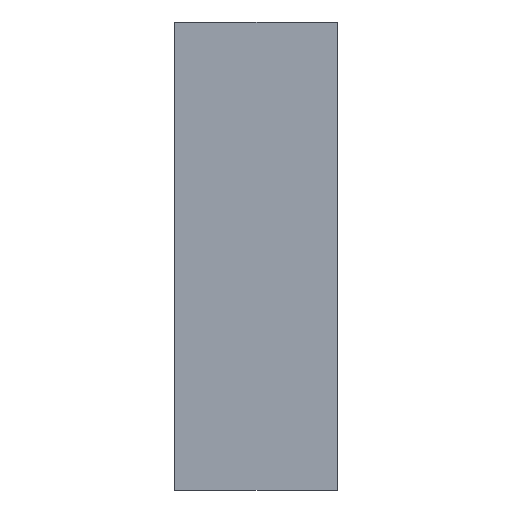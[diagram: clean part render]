
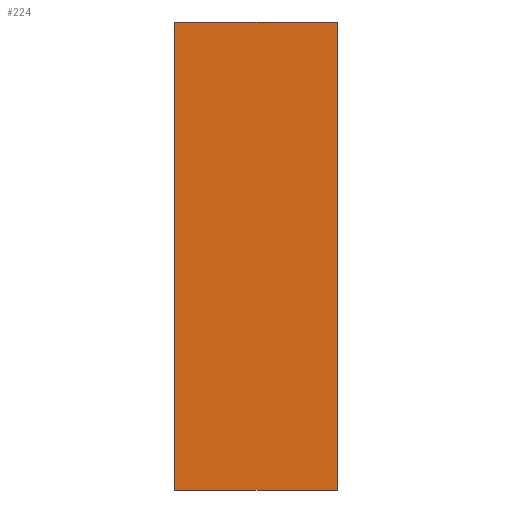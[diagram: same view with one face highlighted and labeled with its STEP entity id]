
A CAD part, front view. The second image highlights one B-rep face of the part: STEP entity #224.
In plain terms, the highlighted free-form (B-spline) face has degree [1, 1] with [2, 2] control points.
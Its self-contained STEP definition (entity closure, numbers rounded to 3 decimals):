
#224=ADVANCED_FACE('',(#502),#4693,.T.);
#502=FACE_OUTER_BOUND('',#780,.T.);
#780=EDGE_LOOP('',(#1257,#1258,#1259,#1260,#1261,#1262,#1263,#1264));
#1257=ORIENTED_EDGE('',*,*,#2703,.F.);
#1258=ORIENTED_EDGE('',*,*,#2705,.F.);
#1259=ORIENTED_EDGE('',*,*,#2698,.F.);
#1260=ORIENTED_EDGE('',*,*,#2712,.T.);
#1261=ORIENTED_EDGE('',*,*,#2708,.F.);
#1262=ORIENTED_EDGE('',*,*,#2718,.T.);
#1263=ORIENTED_EDGE('',*,*,#2714,.T.);
#1264=ORIENTED_EDGE('',*,*,#2719,.T.);
#2698=EDGE_CURVE('',#4210,#4211,#3845,.T.);
#2703=EDGE_CURVE('',#4215,#4216,#3848,.T.);
#2705=EDGE_CURVE('',#4211,#4215,#3439,.T.);
#2708=EDGE_CURVE('',#4218,#4219,#3849,.T.);
#2712=EDGE_CURVE('',#4210,#4219,#3444,.T.);
#2714=EDGE_CURVE('',#4221,#4222,#3851,.T.);
#2718=EDGE_CURVE('',#4218,#4221,#3448,.T.);
#2719=EDGE_CURVE('',#4222,#4216,#3449,.T.);
#3439=B_SPLINE_CURVE_WITH_KNOTS('',1,(#6290,#6291),.UNSPECIFIED.,.F.,.F.,
(2,2),(0.,694.),.UNSPECIFIED.);
#3444=B_SPLINE_CURVE_WITH_KNOTS('',1,(#6306,#6307),.UNSPECIFIED.,.F.,.F.,
(2,2),(-1996.,0.),.UNSPECIFIED.);
#3448=B_SPLINE_CURVE_WITH_KNOTS('',1,(#6320,#6321),.UNSPECIFIED.,.F.,.F.,
(2,2),(-694.,0.),.UNSPECIFIED.);
#3449=B_SPLINE_CURVE_WITH_KNOTS('',1,(#6322,#6323),.UNSPECIFIED.,.F.,.F.,
(2,2),(-1996.,0.),.UNSPECIFIED.);
#3845=(
BOUNDED_CURVE()
B_SPLINE_CURVE(2,(#6272,#6273,#6274),.UNSPECIFIED.,.F.,.F.)
B_SPLINE_CURVE_WITH_KNOTS((3,3),(0.,3.142),.UNSPECIFIED.)
CURVE()
GEOMETRIC_REPRESENTATION_ITEM()
RATIONAL_B_SPLINE_CURVE((1.,0.707,1.))
REPRESENTATION_ITEM('')
);
#3848=(
BOUNDED_CURVE()
B_SPLINE_CURVE(2,(#6285,#6286,#6287),.UNSPECIFIED.,.F.,.F.)
B_SPLINE_CURVE_WITH_KNOTS((3,3),(0.,3.142),.UNSPECIFIED.)
CURVE()
GEOMETRIC_REPRESENTATION_ITEM()
RATIONAL_B_SPLINE_CURVE((1.,0.707,1.))
REPRESENTATION_ITEM('')
);
#3849=(
BOUNDED_CURVE()
B_SPLINE_CURVE(2,(#6296,#6297,#6298),.UNSPECIFIED.,.F.,.F.)
B_SPLINE_CURVE_WITH_KNOTS((3,3),(0.,3.142),.UNSPECIFIED.)
CURVE()
GEOMETRIC_REPRESENTATION_ITEM()
RATIONAL_B_SPLINE_CURVE((1.,0.707,1.))
REPRESENTATION_ITEM('')
);
#3851=(
BOUNDED_CURVE()
B_SPLINE_CURVE(2,(#6310,#6311,#6312),.UNSPECIFIED.,.F.,.F.)
B_SPLINE_CURVE_WITH_KNOTS((3,3),(-3.142,0.),.UNSPECIFIED.)
CURVE()
GEOMETRIC_REPRESENTATION_ITEM()
RATIONAL_B_SPLINE_CURVE((1.,0.707,1.))
REPRESENTATION_ITEM('')
);
#4210=VERTEX_POINT('',#6255);
#4211=VERTEX_POINT('',#6256);
#4215=VERTEX_POINT('',#6260);
#4216=VERTEX_POINT('',#6261);
#4218=VERTEX_POINT('',#6263);
#4219=VERTEX_POINT('',#6264);
#4221=VERTEX_POINT('',#6266);
#4222=VERTEX_POINT('',#6267);
#4693=B_SPLINE_SURFACE_WITH_KNOTS('',1,1,((#6223,#6224),(#6225,#6226)),
 .UNSPECIFIED.,.F.,.F.,.F.,(2,2),(2,2),(0.012,837.636),
(0.012,2400.036),.UNSPECIFIED.);
#6223=CARTESIAN_POINT('',(850.292,-6.451,1282.155));
#6224=CARTESIAN_POINT('',(850.292,-6.451,-1117.869));
#6225=CARTESIAN_POINT('',(12.668,-6.451,1282.155));
#6226=CARTESIAN_POINT('',(12.668,-6.451,-1117.869));
#6255=CARTESIAN_POINT('',(82.48,-6.451,1080.143));
#6256=CARTESIAN_POINT('',(84.48,-6.451,1082.143));
#6260=CARTESIAN_POINT('',(778.48,-6.451,1082.143));
#6261=CARTESIAN_POINT('',(780.48,-6.451,1080.143));
#6263=CARTESIAN_POINT('',(84.48,-6.451,-917.857));
#6264=CARTESIAN_POINT('',(82.48,-6.451,-915.857));
#6266=CARTESIAN_POINT('',(778.48,-6.451,-917.857));
#6267=CARTESIAN_POINT('',(780.48,-6.451,-915.857));
#6272=CARTESIAN_POINT('',(82.48,-6.451,1080.143));
#6273=CARTESIAN_POINT('',(82.48,-6.451,1082.143));
#6274=CARTESIAN_POINT('',(84.48,-6.451,1082.143));
#6285=CARTESIAN_POINT('',(778.48,-6.451,1082.143));
#6286=CARTESIAN_POINT('',(780.48,-6.451,1082.143));
#6287=CARTESIAN_POINT('',(780.48,-6.451,1080.143));
#6290=CARTESIAN_POINT('',(84.48,-6.451,1082.143));
#6291=CARTESIAN_POINT('',(778.48,-6.451,1082.143));
#6296=CARTESIAN_POINT('',(84.48,-6.451,-917.857));
#6297=CARTESIAN_POINT('',(82.48,-6.451,-917.857));
#6298=CARTESIAN_POINT('',(82.48,-6.451,-915.857));
#6306=CARTESIAN_POINT('',(82.48,-6.451,1080.143));
#6307=CARTESIAN_POINT('',(82.48,-6.451,-915.857));
#6310=CARTESIAN_POINT('',(778.48,-6.451,-917.857));
#6311=CARTESIAN_POINT('',(780.48,-6.451,-917.857));
#6312=CARTESIAN_POINT('',(780.48,-6.451,-915.857));
#6320=CARTESIAN_POINT('',(84.48,-6.451,-917.857));
#6321=CARTESIAN_POINT('',(778.48,-6.451,-917.857));
#6322=CARTESIAN_POINT('',(780.48,-6.451,-915.857));
#6323=CARTESIAN_POINT('',(780.48,-6.451,1080.143));
